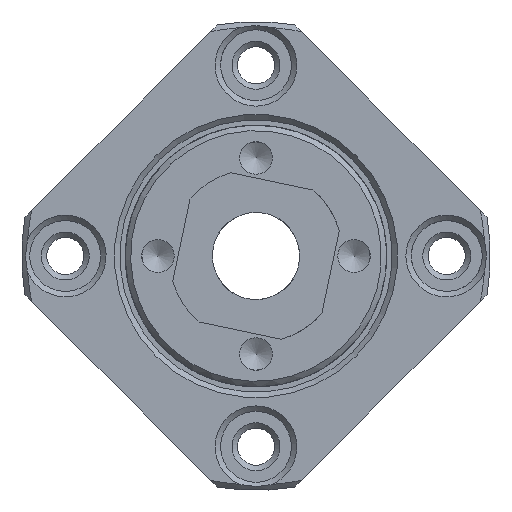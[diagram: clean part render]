
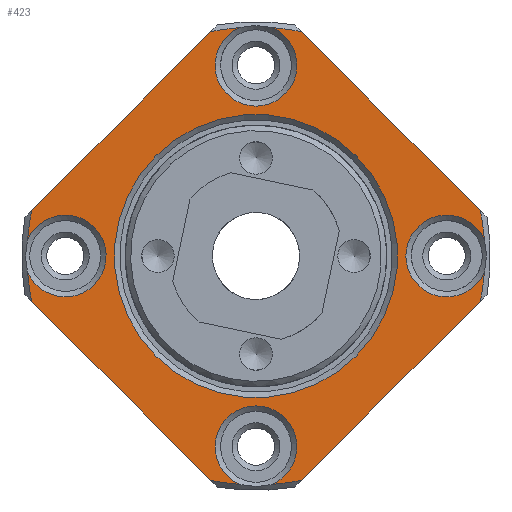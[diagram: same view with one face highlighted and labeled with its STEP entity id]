
A CAD part, front view. The second image highlights one B-rep face of the part: STEP entity #423.
In plain terms, the highlighted planar face has unit normal (0, -1, 0).
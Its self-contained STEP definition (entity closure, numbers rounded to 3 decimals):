
#208=PLANE('',#1660);
#298=FACE_BOUND('',#618,.T.);
#299=FACE_BOUND('',#619,.T.);
#423=ADVANCED_FACE('',(#298,#299),#208,.F.);
#618=EDGE_LOOP('',(#1023,#1024,#1025,#1026,#1027,#1028,#1029,#1030,#1031,
#1032,#1033,#1034,#1035,#1036,#1037,#1038));
#619=EDGE_LOOP('',(#1039));
#709=CIRCLE('',#1577,12.99);
#729=CIRCLE('',#1617,21.);
#730=CIRCLE('',#1618,21.);
#733=CIRCLE('',#1623,3.75);
#736=CIRCLE('',#1629,21.);
#737=CIRCLE('',#1630,21.);
#740=CIRCLE('',#1635,3.75);
#743=CIRCLE('',#1641,21.);
#744=CIRCLE('',#1642,21.);
#747=CIRCLE('',#1647,3.75);
#750=CIRCLE('',#1653,21.);
#751=CIRCLE('',#1654,21.);
#754=CIRCLE('',#1659,3.75);
#1023=ORIENTED_EDGE('',*,*,#1410,.F.);
#1024=ORIENTED_EDGE('',*,*,#1406,.F.);
#1025=ORIENTED_EDGE('',*,*,#1373,.T.);
#1026=ORIENTED_EDGE('',*,*,#1397,.F.);
#1027=ORIENTED_EDGE('',*,*,#1402,.F.);
#1028=ORIENTED_EDGE('',*,*,#1398,.F.);
#1029=ORIENTED_EDGE('',*,*,#1365,.T.);
#1030=ORIENTED_EDGE('',*,*,#1389,.F.);
#1031=ORIENTED_EDGE('',*,*,#1394,.F.);
#1032=ORIENTED_EDGE('',*,*,#1390,.F.);
#1033=ORIENTED_EDGE('',*,*,#1369,.T.);
#1034=ORIENTED_EDGE('',*,*,#1381,.F.);
#1035=ORIENTED_EDGE('',*,*,#1386,.F.);
#1036=ORIENTED_EDGE('',*,*,#1382,.F.);
#1037=ORIENTED_EDGE('',*,*,#1377,.T.);
#1038=ORIENTED_EDGE('',*,*,#1405,.F.);
#1039=ORIENTED_EDGE('',*,*,#1329,.T.);
#1189=VERTEX_POINT('',#3083);
#1221=VERTEX_POINT('',#3191);
#1222=VERTEX_POINT('',#3192);
#1223=VERTEX_POINT('',#3208);
#1224=VERTEX_POINT('',#3209);
#1225=VERTEX_POINT('',#3225);
#1226=VERTEX_POINT('',#3226);
#1227=VERTEX_POINT('',#3242);
#1228=VERTEX_POINT('',#3243);
#1229=VERTEX_POINT('',#3259);
#1230=VERTEX_POINT('',#3261);
#1235=VERTEX_POINT('',#3281);
#1236=VERTEX_POINT('',#3283);
#1241=VERTEX_POINT('',#3303);
#1242=VERTEX_POINT('',#3305);
#1247=VERTEX_POINT('',#3325);
#1248=VERTEX_POINT('',#3327);
#1329=EDGE_CURVE('GENERATED CIRCLE',#1189,#1189,#709,.T.);
#1365=EDGE_CURVE('LINE',#1221,#1222,#1475,.T.);
#1369=EDGE_CURVE('LINE',#1223,#1224,#1477,.T.);
#1373=EDGE_CURVE('LINE',#1225,#1226,#1479,.T.);
#1377=EDGE_CURVE('LINE',#1227,#1228,#1481,.T.);
#1381=EDGE_CURVE('GENERATED CIRCLE',#1229,#1224,#729,.T.);
#1382=EDGE_CURVE('GENERATED CIRCLE',#1227,#1230,#730,.T.);
#1386=EDGE_CURVE('GENERATED CIRCLE',#1230,#1229,#733,.T.);
#1389=EDGE_CURVE('GENERATED CIRCLE',#1235,#1222,#736,.T.);
#1390=EDGE_CURVE('GENERATED CIRCLE',#1223,#1236,#737,.T.);
#1394=EDGE_CURVE('GENERATED CIRCLE',#1236,#1235,#740,.T.);
#1397=EDGE_CURVE('GENERATED CIRCLE',#1241,#1226,#743,.T.);
#1398=EDGE_CURVE('GENERATED CIRCLE',#1221,#1242,#744,.T.);
#1402=EDGE_CURVE('GENERATED CIRCLE',#1242,#1241,#747,.T.);
#1405=EDGE_CURVE('GENERATED CIRCLE',#1247,#1228,#750,.T.);
#1406=EDGE_CURVE('GENERATED CIRCLE',#1225,#1248,#751,.T.);
#1410=EDGE_CURVE('GENERATED CIRCLE',#1248,#1247,#754,.T.);
#1475=LINE('',#3190,#1513);
#1477=LINE('',#3207,#1515);
#1479=LINE('',#3224,#1517);
#1481=LINE('',#3241,#1519);
#1513=VECTOR('',#1899,1.);
#1515=VECTOR('',#1903,1.);
#1517=VECTOR('',#1907,1.);
#1519=VECTOR('',#1911,1.);
#1577=AXIS2_PLACEMENT_3D('',#3082,#1819,#1820);
#1617=AXIS2_PLACEMENT_3D('',#3258,#1915,#1916);
#1618=AXIS2_PLACEMENT_3D('',#3260,#1917,#1918);
#1623=AXIS2_PLACEMENT_3D('',#3272,#1927,#1928);
#1629=AXIS2_PLACEMENT_3D('',#3280,#1939,#1940);
#1630=AXIS2_PLACEMENT_3D('',#3282,#1941,#1942);
#1635=AXIS2_PLACEMENT_3D('',#3294,#1951,#1952);
#1641=AXIS2_PLACEMENT_3D('',#3302,#1963,#1964);
#1642=AXIS2_PLACEMENT_3D('',#3304,#1965,#1966);
#1647=AXIS2_PLACEMENT_3D('',#3316,#1975,#1976);
#1653=AXIS2_PLACEMENT_3D('',#3324,#1987,#1988);
#1654=AXIS2_PLACEMENT_3D('',#3326,#1989,#1990);
#1659=AXIS2_PLACEMENT_3D('',#3338,#1999,#2000);
#1660=AXIS2_PLACEMENT_3D('',#3339,#2001,#2002);
#1819=DIRECTION('',(0.,1.,0.));
#1820=DIRECTION('',(1.,0.,0.));
#1899=DIRECTION('',(-1.,0.,0.));
#1903=DIRECTION('',(0.,0.,-1.));
#1907=DIRECTION('',(0.,0.,1.));
#1911=DIRECTION('',(1.,0.,0.));
#1915=DIRECTION('',(0.,1.,0.));
#1916=DIRECTION('',(1.,0.,0.));
#1917=DIRECTION('',(0.,1.,0.));
#1918=DIRECTION('',(1.,0.,0.));
#1927=DIRECTION('',(0.,-1.,0.));
#1928=DIRECTION('',(1.,0.,0.));
#1939=DIRECTION('',(0.,1.,0.));
#1940=DIRECTION('',(1.,0.,0.));
#1941=DIRECTION('',(0.,1.,0.));
#1942=DIRECTION('',(1.,0.,0.));
#1951=DIRECTION('',(0.,-1.,0.));
#1952=DIRECTION('',(1.,0.,0.));
#1963=DIRECTION('',(0.,1.,0.));
#1964=DIRECTION('',(1.,0.,0.));
#1965=DIRECTION('',(0.,1.,0.));
#1966=DIRECTION('',(1.,0.,0.));
#1975=DIRECTION('',(0.,-1.,0.));
#1976=DIRECTION('',(1.,0.,0.));
#1987=DIRECTION('',(0.,1.,0.));
#1988=DIRECTION('',(1.,0.,0.));
#1989=DIRECTION('',(0.,1.,0.));
#1990=DIRECTION('',(1.,0.,0.));
#1999=DIRECTION('',(0.,-1.,0.));
#2000=DIRECTION('',(1.,0.,0.));
#2001=DIRECTION('',(0.,1.,0.));
#2002=DIRECTION('',(-1.,0.,0.));
#3082=CARTESIAN_POINT('',(0.,0.,0.));
#3083=CARTESIAN_POINT('',(12.99,0.,0.));
#3190=CARTESIAN_POINT('',(0.,0.,17.5));
#3191=CARTESIAN_POINT('',(11.608,0.,17.5));
#3192=CARTESIAN_POINT('',(-11.608,0.,17.5));
#3207=CARTESIAN_POINT('',(-17.5,0.,0.));
#3208=CARTESIAN_POINT('',(-17.5,0.,11.608));
#3209=CARTESIAN_POINT('',(-17.5,0.,-11.608));
#3224=CARTESIAN_POINT('',(17.5,0.,0.));
#3225=CARTESIAN_POINT('',(17.5,0.,-11.608));
#3226=CARTESIAN_POINT('',(17.5,0.,11.608));
#3241=CARTESIAN_POINT('',(0.,0.,-17.5));
#3242=CARTESIAN_POINT('',(-11.608,0.,-17.5));
#3243=CARTESIAN_POINT('',(11.608,0.,-17.5));
#3258=CARTESIAN_POINT('',(0.,0.,0.));
#3259=CARTESIAN_POINT('',(-15.855,0.,-13.77));
#3260=CARTESIAN_POINT('',(0.,0.,0.));
#3261=CARTESIAN_POINT('',(-13.77,0.,-15.855));
#3272=CARTESIAN_POINT('',(-12.374,0.,-12.374));
#3280=CARTESIAN_POINT('',(0.,0.,0.));
#3281=CARTESIAN_POINT('',(-13.77,0.,15.855));
#3282=CARTESIAN_POINT('',(0.,0.,0.));
#3283=CARTESIAN_POINT('',(-15.855,0.,13.77));
#3294=CARTESIAN_POINT('',(-12.374,0.,12.374));
#3302=CARTESIAN_POINT('',(0.,0.,0.));
#3303=CARTESIAN_POINT('',(15.855,0.,13.77));
#3304=CARTESIAN_POINT('',(0.,0.,0.));
#3305=CARTESIAN_POINT('',(13.77,0.,15.855));
#3316=CARTESIAN_POINT('',(12.374,0.,12.374));
#3324=CARTESIAN_POINT('',(0.,0.,0.));
#3325=CARTESIAN_POINT('',(13.77,0.,-15.855));
#3326=CARTESIAN_POINT('',(0.,0.,0.));
#3327=CARTESIAN_POINT('',(15.855,0.,-13.77));
#3338=CARTESIAN_POINT('',(12.374,0.,-12.374));
#3339=CARTESIAN_POINT('',(21.5,0.,0.));
